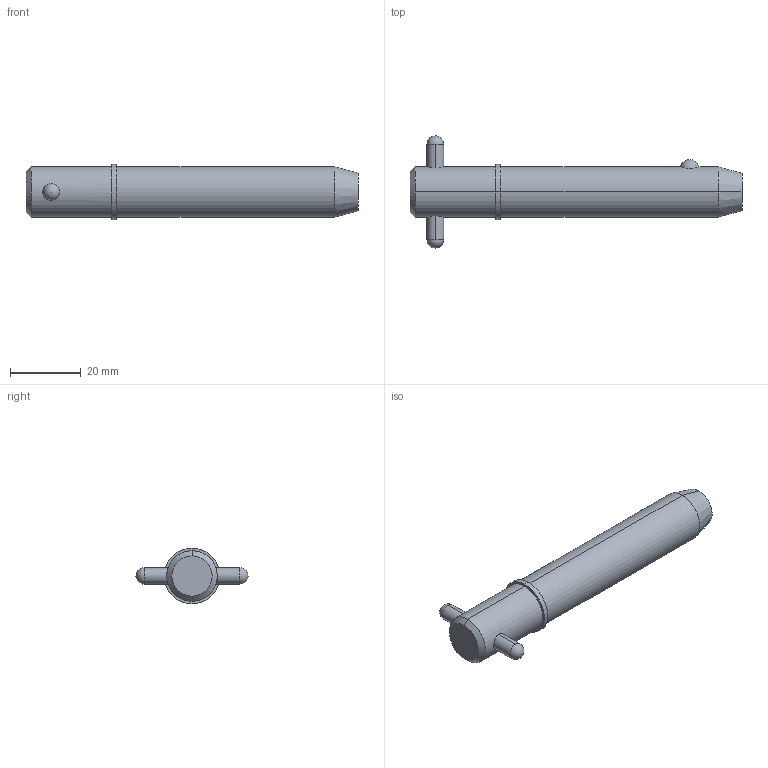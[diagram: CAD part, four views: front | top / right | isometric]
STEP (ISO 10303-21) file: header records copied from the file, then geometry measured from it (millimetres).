
FILE_DESCRIPTION (( 'STEP AP203' ), '1' );
FILE_NAME ('33018.W5620.step', '2024-11-19T17:16:32', ( '' ), ( '' ), 'SwSTEP 2.0', 'SolidWorks 2019', '' );
FILE_SCHEMA (( 'CONFIG_CONTROL_DESIGN' ));
Length unit declared in the file: millimetre
Products named in the file (3): 33018.W5620; Part2_33018.W5620; Part1_33018.W5620
Assembly tree (2 placements, depth 2):
  33018.W5620
    Part1_33018.W5620
    Part2_33018.W5620
Bounding box: 93.95 x 31.75 x 15.72 mm (x, y, z)
Volume: 15143.6 mm3; surface area: 5136.1 mm2
Topology: 2 solids, 2 shells, 22 faces, 47 edges, 30 vertices
Faces by surface type: cylinder 10, sphere 4, cone 4, plane 4
Entity records: 1033 total; most frequent: CARTESIAN_POINT 276, DIRECTION 110, ORIENTED_EDGE 82, AXIS2_PLACEMENT_3D 48, EDGE_CURVE 41, EDGE_LOOP 27, PERSON_AND_ORGANIZATION 26, VERTEX_POINT 26
